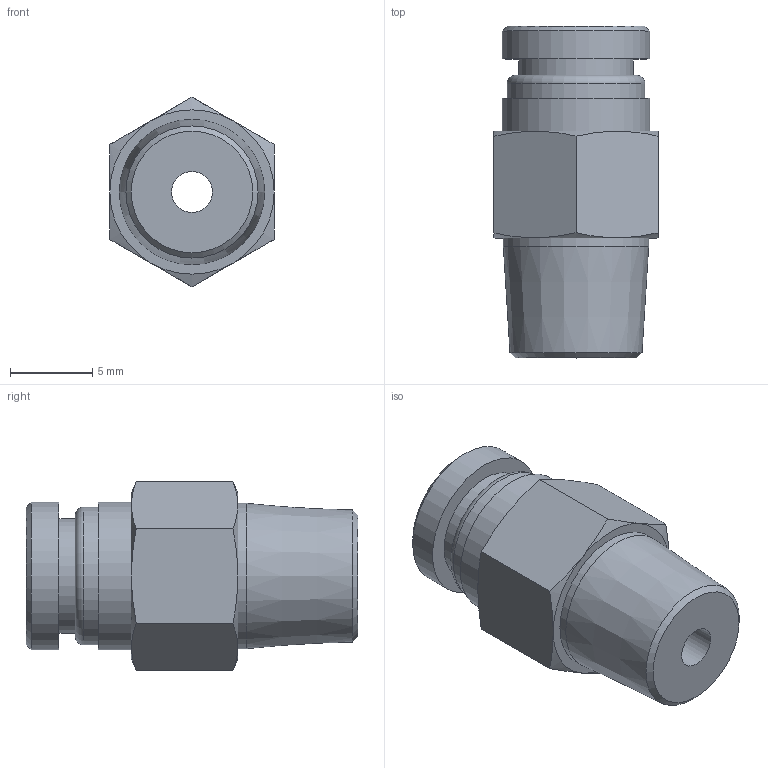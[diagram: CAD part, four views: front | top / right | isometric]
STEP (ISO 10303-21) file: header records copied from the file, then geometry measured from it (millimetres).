
FILE_DESCRIPTION(/* description */ (''),/* implementation_level */ '2;1');
FILE_NAME(/* name */ 'LXH11 0004 B1.stp',/* time_stamp */ '2026-04-19T14:25:10+02:00',/* author */ ('freju'),/* organization */ (''),/* preprocessor_version */ 'ST-DEVELOPER v20.1',/* originating_system */ 'Autodesk Inventor 2026',/* authorisation */ '');
FILE_SCHEMA (('AUTOMOTIVE_DESIGN { 1 0 10303 214 3 1 1 }'));
Length unit declared in the file: millimetre
Products named in the file (1): LXH11 0004 B1
Bounding box: 10 x 20.2 x 11.55 mm (x, y, z)
Volume: 1162.7 mm3; surface area: 978.4 mm2
Topology: 1 solids, 1 shells, 37 faces, 74 edges, 45 vertices
Faces by surface type: cone 15, plane 14, cylinder 7, torus 1
Full cylindrical faces by diameter (mm): 2.5 x1, 4 x1, 7 x1, 8.4 x1, 8.851 x1, 9 x2
Entity records: 981 total; most frequent: CARTESIAN_POINT 205, DIRECTION 160, ORIENTED_EDGE 148, EDGE_CURVE 74, AXIS2_PLACEMENT_3D 72, EDGE_LOOP 45, VERTEX_POINT 45, FACE_OUTER_BOUND 37
